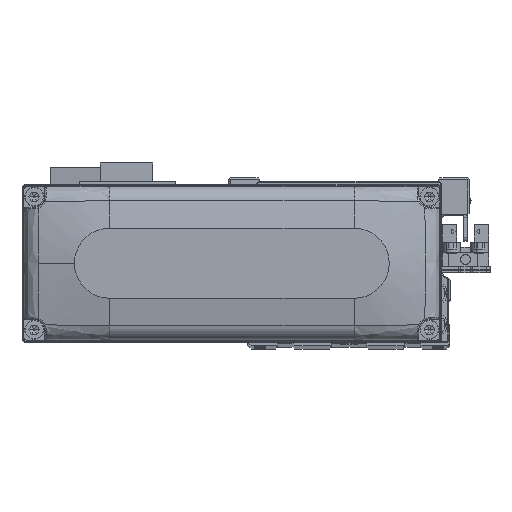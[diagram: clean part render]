
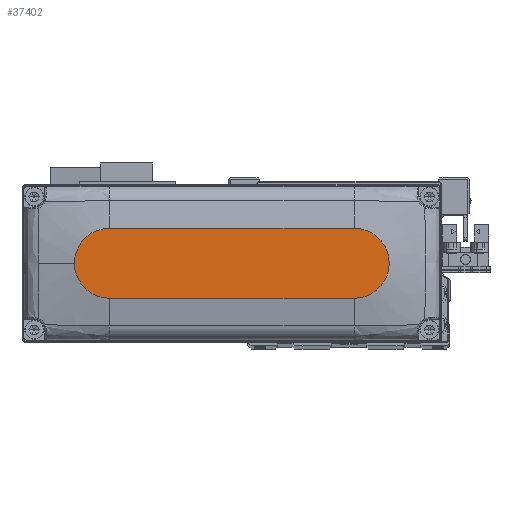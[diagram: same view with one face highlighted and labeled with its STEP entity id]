
A CAD part, top view. The second image highlights one B-rep face of the part: STEP entity #37402.
In plain terms, the highlighted planar face has unit normal (0, 0, 1).
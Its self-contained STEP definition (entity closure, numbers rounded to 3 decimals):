
#18 = PLANE ( 'NONE',  #18855 ) ;
#1084 = VERTEX_POINT ( 'NONE', #26665 ) ;
#2519 = AXIS2_PLACEMENT_3D ( 'NONE', #30359, #3780, #15606 ) ;
#2947 = DIRECTION ( 'NONE',  ( 1., 0., 0. ) ) ;
#3776 = VERTEX_POINT ( 'NONE', #25131 ) ;
#3780 = DIRECTION ( 'NONE',  ( 0., 0., 1. ) ) ;
#6074 = CARTESIAN_POINT ( 'NONE',  ( 35., 0., 28. ) ) ;
#6475 = LINE ( 'NONE', #18299, #32612 ) ;
#6716 = EDGE_CURVE ( 'NONE', #12853, #26769, #11668, .T. ) ;
#7307 = DIRECTION ( 'NONE',  ( 1., 0., 0. ) ) ;
#10319 = AXIS2_PLACEMENT_3D ( 'NONE', #22020, #33863, #7307 ) ;
#11668 = CIRCLE ( 'NONE', #38329, 10. ) ;
#11811 = CARTESIAN_POINT ( 'NONE',  ( 0., 0., 28. ) ) ;
#12375 = EDGE_CURVE ( 'NONE', #18822, #1084, #27055, .T. ) ;
#12853 = VERTEX_POINT ( 'NONE', #19291 ) ;
#15606 = DIRECTION ( 'NONE',  ( 1., 0., 0. ) ) ;
#17675 = LINE ( 'NONE', #29518, #31287 ) ;
#17902 = DIRECTION ( 'NONE',  ( 0., 0., 1. ) ) ;
#18299 = CARTESIAN_POINT ( 'NONE',  ( -35., 10., 28. ) ) ;
#18822 = VERTEX_POINT ( 'NONE', #36908 ) ;
#18855 = AXIS2_PLACEMENT_3D ( 'NONE', #11811, #23642, #35480 ) ;
#19244 = CIRCLE ( 'NONE', #2519, 10. ) ;
#19291 = CARTESIAN_POINT ( 'NONE',  ( 45., 0., 28. ) ) ;
#19887 = EDGE_CURVE ( 'NONE', #26769, #18822, #6475, .T. ) ;
#21234 = ORIENTED_EDGE ( 'NONE', *, *, #6716, .T. ) ;
#22020 = CARTESIAN_POINT ( 'NONE',  ( -35., 0., 28. ) ) ;
#23642 = DIRECTION ( 'NONE',  ( 0., 0., 1. ) ) ;
#25131 = CARTESIAN_POINT ( 'NONE',  ( 35., -10., 28. ) ) ;
#25578 = ORIENTED_EDGE ( 'NONE', *, *, #19887, .T. ) ;
#25860 = ORIENTED_EDGE ( 'NONE', *, *, #12375, .T. ) ;
#26571 = FACE_OUTER_BOUND ( 'NONE', #30845, .T. ) ;
#26665 = CARTESIAN_POINT ( 'NONE',  ( -35., -10., 28. ) ) ;
#26769 = VERTEX_POINT ( 'NONE', #36194 ) ;
#27055 = CIRCLE ( 'NONE', #10319, 10. ) ;
#27280 = EDGE_CURVE ( 'NONE', #3776, #12853, #19244, .T. ) ;
#28587 = ORIENTED_EDGE ( 'NONE', *, *, #38129, .T. ) ;
#29518 = CARTESIAN_POINT ( 'NONE',  ( -35., -10., 28. ) ) ;
#29745 = DIRECTION ( 'NONE',  ( 1., 0., 0. ) ) ;
#30149 = DIRECTION ( 'NONE',  ( -1., 0., 0. ) ) ;
#30359 = CARTESIAN_POINT ( 'NONE',  ( 35., 0., 28. ) ) ;
#30845 = EDGE_LOOP ( 'NONE', ( #25578, #25860, #28587, #36387, #21234 ) ) ;
#31287 = VECTOR ( 'NONE', #2947, 1000. ) ;
#32612 = VECTOR ( 'NONE', #30149, 1000. ) ;
#33863 = DIRECTION ( 'NONE',  ( 0., 0., 1. ) ) ;
#35480 = DIRECTION ( 'NONE',  ( 1., 0., 0. ) ) ;
#36194 = CARTESIAN_POINT ( 'NONE',  ( 35., 10., 28. ) ) ;
#36387 = ORIENTED_EDGE ( 'NONE', *, *, #27280, .T. ) ;
#36908 = CARTESIAN_POINT ( 'NONE',  ( -35., 10., 28. ) ) ;
#37402 = ADVANCED_FACE ( 'NONE', ( #26571 ), #18, .T. ) ;
#38129 = EDGE_CURVE ( 'NONE', #1084, #3776, #17675, .T. ) ;
#38329 = AXIS2_PLACEMENT_3D ( 'NONE', #6074, #17902, #29745 ) ;
